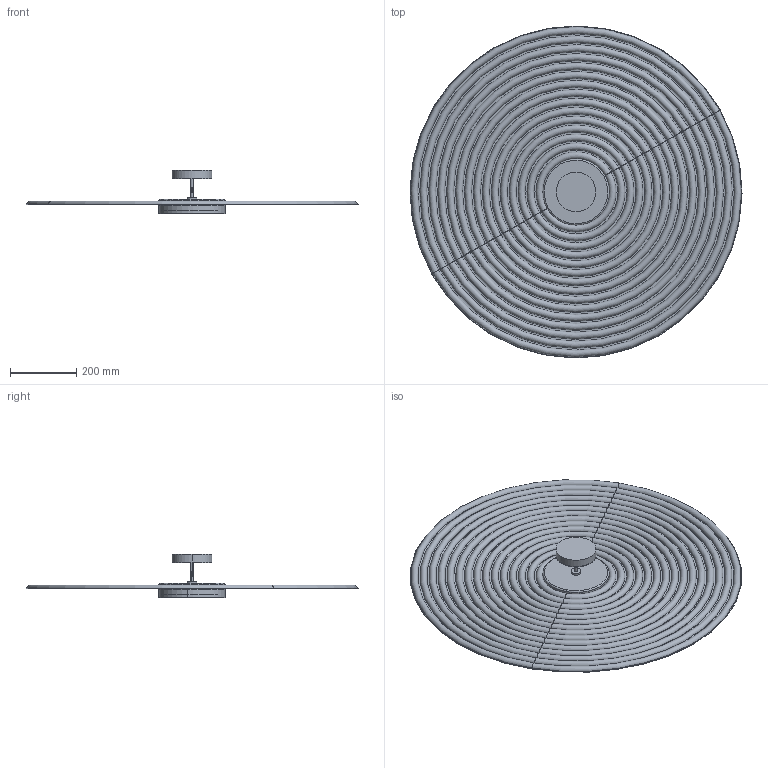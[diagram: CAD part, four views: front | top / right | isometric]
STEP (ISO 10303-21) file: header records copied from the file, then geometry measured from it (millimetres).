
FILE_DESCRIPTION (( 'STEP AP214' ), '1' );
FILE_NAME ('TICO_AU1095_100.STEP', '2026-06-08T15:12:51', ( '' ), ( '' ), 'SwSTEP 2.0', 'SolidWorks 2023', '' );
FILE_SCHEMA (( 'AUTOMOTIVE_DESIGN' ));
Length unit declared in the file: millimetre
Products named in the file (1): TICO_AU1095_100
Bounding box: 1001.71 x 1001.71 x 130 mm (x, y, z)
Volume: 2340531.1 mm3; surface area: 2413420.4 mm2
Topology: 7 solids, 7 shells, 299 faces, 708 edges, 427 vertices
Faces by surface type: cylinder 139, torus 126, plane 24, bspline 10
Entity records: 15413 total; most frequent: CARTESIAN_POINT 9001, ORIENTED_EDGE 1416, DIRECTION 1341, EDGE_CURVE 708, AXIS2_PLACEMENT_3D 597, VERTEX_POINT 427, EDGE_LOOP 309, CIRCLE 307
